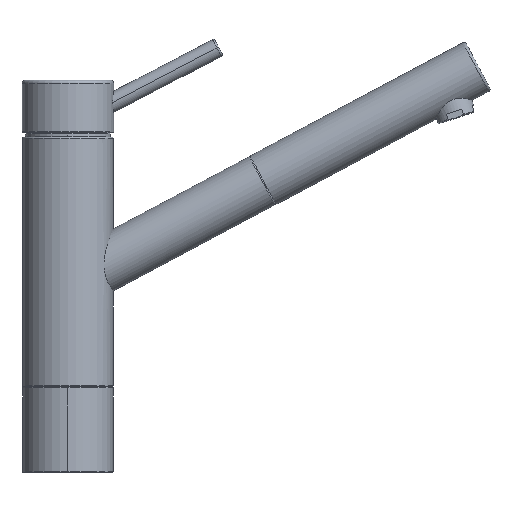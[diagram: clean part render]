
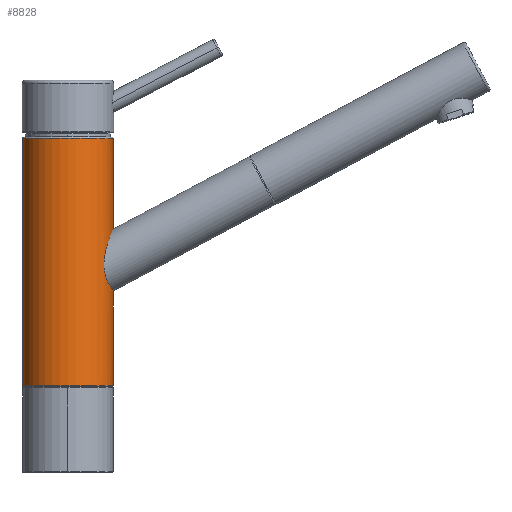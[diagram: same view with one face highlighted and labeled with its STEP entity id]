
A CAD part, top view. The second image highlights one B-rep face of the part: STEP entity #8828.
In plain terms, the highlighted cylindrical face has radius 26.5 mm (diameter 53 mm), a partial arc.
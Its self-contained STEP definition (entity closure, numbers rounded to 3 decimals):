
#2334=DIRECTION('',(0.,1.,0.));
#2335=VECTOR('',#2334,52.989);
#2336=CARTESIAN_POINT('',(26.5,92.561,0.));
#2337=LINE('',#2336,#2335);
#2343=DIRECTION('',(0.,1.,0.));
#2344=VECTOR('',#2343,55.469);
#2345=CARTESIAN_POINT('',(26.5,0.85,0.));
#2346=LINE('',#2345,#2344);
#2347=CARTESIAN_POINT('',(26.5,92.561,0.));
#2348=CARTESIAN_POINT('',(26.5,92.561,0.323));
#2349=CARTESIAN_POINT('',(26.488,92.533,0.971));
#2350=CARTESIAN_POINT('',(26.434,92.403,1.947));
#2351=CARTESIAN_POINT('',(26.344,92.185,2.927));
#2352=CARTESIAN_POINT('',(26.215,91.871,3.918));
#2353=CARTESIAN_POINT('',(26.045,91.453,4.926));
#2354=CARTESIAN_POINT('',(25.832,90.925,5.943));
#2355=CARTESIAN_POINT('',(25.572,90.271,6.98));
#2356=CARTESIAN_POINT('',(25.262,89.476,8.03));
#2357=CARTESIAN_POINT('',(24.901,88.526,9.091));
#2358=CARTESIAN_POINT('',(24.489,87.41,10.147));
#2359=CARTESIAN_POINT('',(24.036,86.13,11.177));
#2360=CARTESIAN_POINT('',(23.555,84.695,12.156));
#2361=CARTESIAN_POINT('',(23.069,83.138,13.054));
#2362=CARTESIAN_POINT('',(22.6,81.494,13.848));
#2363=CARTESIAN_POINT('',(22.168,79.793,14.526));
#2364=CARTESIAN_POINT('',(21.794,78.069,15.08));
#2365=CARTESIAN_POINT('',(21.497,76.373,15.498));
#2366=CARTESIAN_POINT('',(21.287,74.758,15.784));
#2367=CARTESIAN_POINT('',(21.162,73.241,15.951));
#2368=CARTESIAN_POINT('',(21.114,71.815,16.014));
#2369=CARTESIAN_POINT('',(21.137,70.466,15.984));
#2370=CARTESIAN_POINT('',(21.225,69.187,15.867));
#2371=CARTESIAN_POINT('',(21.37,67.985,15.672));
#2372=CARTESIAN_POINT('',(21.57,66.831,15.397));
#2373=CARTESIAN_POINT('',(21.825,65.704,15.033));
#2374=CARTESIAN_POINT('',(22.13,64.617,14.582));
#2375=CARTESIAN_POINT('',(22.478,63.578,14.042));
#2376=CARTESIAN_POINT('',(22.858,62.595,13.415));
#2377=CARTESIAN_POINT('',(23.268,61.659,12.693));
#2378=CARTESIAN_POINT('',(23.696,60.778,11.878));
#2379=CARTESIAN_POINT('',(24.134,59.955,10.963));
#2380=CARTESIAN_POINT('',(24.565,59.204,9.962));
#2381=CARTESIAN_POINT('',(24.978,58.53,8.878));
#2382=CARTESIAN_POINT('',(25.358,57.942,7.729));
#2383=CARTESIAN_POINT('',(25.696,57.441,6.52));
#2384=CARTESIAN_POINT('',(25.982,57.031,5.268));
#2385=CARTESIAN_POINT('',(26.211,56.713,3.979));
#2386=CARTESIAN_POINT('',(26.377,56.486,2.667));
#2387=CARTESIAN_POINT('',(26.478,56.349,1.336));
#2388=CARTESIAN_POINT('',(26.5,56.319,0.446));
#2389=CARTESIAN_POINT('',(26.5,56.319,0.));
#2391=DIRECTION('',(0.,1.,0.));
#2392=VECTOR('',#2391,144.7);
#2393=CARTESIAN_POINT('',(-26.5,0.85,0.));
#2394=LINE('',#2393,#2392);
#2395=CARTESIAN_POINT('',(0.,145.55,0.));
#2396=DIRECTION('',(0.,1.,0.));
#2397=DIRECTION('',(-1.,0.,0.));
#2398=AXIS2_PLACEMENT_3D('',#2395,#2396,#2397);
#4033=CARTESIAN_POINT('',(0.,0.85,0.));
#4034=DIRECTION('',(0.,-1.,0.));
#4035=DIRECTION('',(1.,0.,0.));
#4036=AXIS2_PLACEMENT_3D('',#4033,#4034,#4035);
#4985=CARTESIAN_POINT('',(26.5,0.85,0.));
#4986=CARTESIAN_POINT('',(-26.5,0.85,0.));
#4987=VERTEX_POINT('',#4985);
#4988=VERTEX_POINT('',#4986);
#4997=CARTESIAN_POINT('',(-26.5,145.55,0.));
#4998=CARTESIAN_POINT('',(26.5,145.55,0.));
#4999=VERTEX_POINT('',#4997);
#5000=VERTEX_POINT('',#4998);
#5075=VERTEX_POINT('',#2347);
#5076=VERTEX_POINT('',#2389);
#8812=CARTESIAN_POINT('',(0.,0.35,0.));
#8813=DIRECTION('',(0.,1.,0.));
#8814=DIRECTION('',(-1.,0.,0.));
#8815=AXIS2_PLACEMENT_3D('',#8812,#8813,#8814);
#8816=CYLINDRICAL_SURFACE('',#8815,26.5);
#8818=ORIENTED_EDGE('',*,*,#8817,.T.);
#8819=ORIENTED_EDGE('',*,*,#8807,.F.);
#8821=ORIENTED_EDGE('',*,*,#8820,.T.);
#8822=ORIENTED_EDGE('',*,*,#8803,.T.);
#8824=ORIENTED_EDGE('',*,*,#8823,.T.);
#8825=ORIENTED_EDGE('',*,*,#8799,.F.);
#8826=EDGE_LOOP('',(#8818,#8819,#8821,#8822,#8824,#8825));
#8827=FACE_OUTER_BOUND('',#8826,.F.);
#2390=B_SPLINE_CURVE_WITH_KNOTS('',3,(#2347,#2348,#2349,#2350,#2351,#2352,#2353,
#2354,#2355,#2356,#2357,#2358,#2359,#2360,#2361,#2362,#2363,#2364,#2365,#2366,
#2367,#2368,#2369,#2370,#2371,#2372,#2373,#2374,#2375,#2376,#2377,#2378,#2379,
#2380,#2381,#2382,#2383,#2384,#2385,#2386,#2387,#2388,#2389),.UNSPECIFIED.,.F.,
.F.,(4,1,1,1,1,1,1,1,1,1,1,1,1,1,1,1,1,1,1,1,1,1,1,1,1,1,1,1,1,1,1,1,1,1,1,1,1,
1,1,1,4),(0.,0.025,0.05,0.075,0.1,0.125,0.15,0.175,0.2,0.225,
0.25,0.275,0.3,0.325,0.35,0.375,0.4,0.425,0.45,0.475,0.5,
0.525,0.55,0.575,0.6,0.625,0.65,0.675,0.7,0.725,0.75,
0.775,0.8,0.825,0.85,0.875,0.9,0.925,0.95,0.975,1.),
.UNSPECIFIED.);
#2399=CIRCLE('',#2398,26.5);
#4037=CIRCLE('',#4036,26.5);
#8799=EDGE_CURVE('',#5075,#5000,#2337,.T.);
#8803=EDGE_CURVE('',#4988,#4999,#2394,.T.);
#8807=EDGE_CURVE('',#4987,#5076,#2346,.T.);
#8817=EDGE_CURVE('',#5075,#5076,#2390,.T.);
#8820=EDGE_CURVE('',#4987,#4988,#4037,.T.);
#8823=EDGE_CURVE('',#4999,#5000,#2399,.T.);
#8828=ADVANCED_FACE('',(#8827),#8816,.T.);
